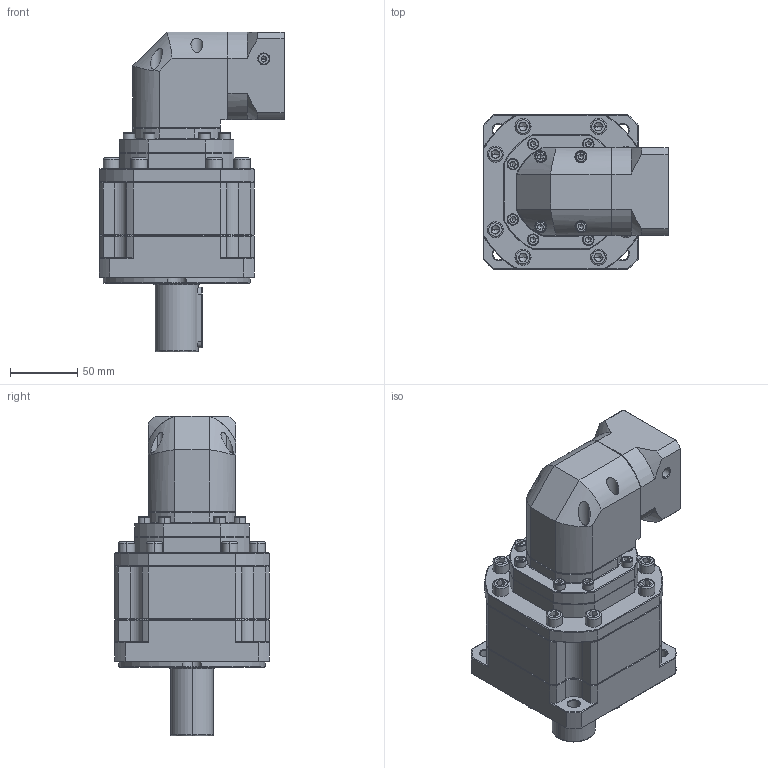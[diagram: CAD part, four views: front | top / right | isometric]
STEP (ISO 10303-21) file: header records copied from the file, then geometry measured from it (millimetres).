
FILE_DESCRIPTION (( 'STEP AP214' ), '1' );
FILE_NAME ('ZBR115A-D32-L3-P2-14-60-75-M6.step', '2023-08-26T14:07:31', ( '' ), ( '' ), 'SwSTEP 2.0', 'SolidWorks 2016', '' );
FILE_SCHEMA (( 'AUTOMOTIVE_DESIGN' ));
Length unit declared in the file: millimetre
Products named in the file (1): ZBR115A-D32-L3-P2-14-60-75-M6
Bounding box: 137.7 x 115 x 237.5 mm (x, y, z)
Volume: 1581395.3 mm3; surface area: 147882.7 mm2
Topology: 6 solids, 6 shells, 2633 faces, 6938 edges, 4425 vertices
Faces by surface type: plane 1299, cylinder 481, bspline 443, cone 390, torus 20
Entity records: 136605 total; most frequent: CARTESIAN_POINT 46044, ORIENTED_EDGE 13752, DIRECTION 11221, EDGE_CURVE 6876, VERTEX_POINT 4425, LINE 4373, VECTOR 4373, AXIS2_PLACEMENT_3D 3424
